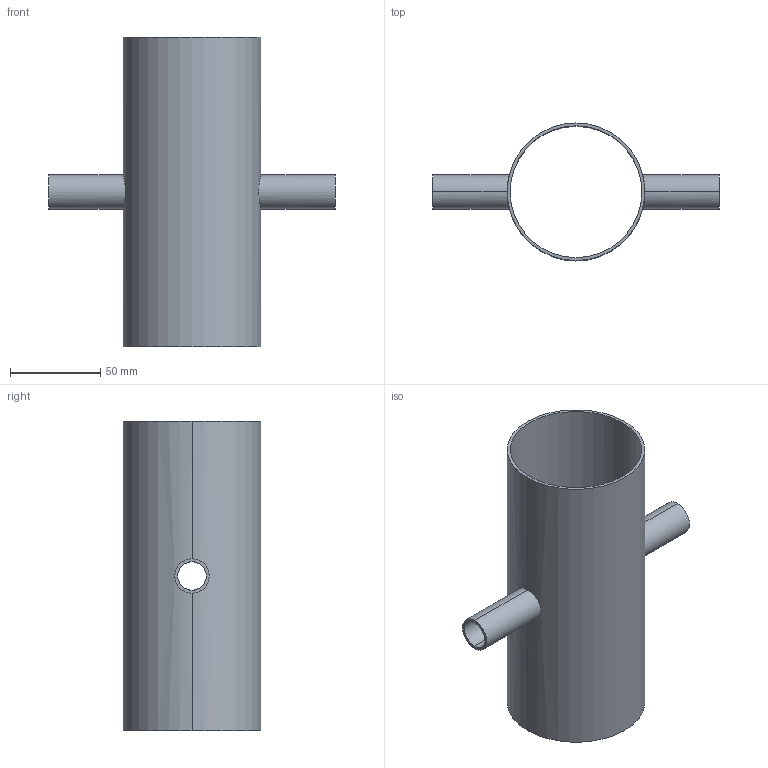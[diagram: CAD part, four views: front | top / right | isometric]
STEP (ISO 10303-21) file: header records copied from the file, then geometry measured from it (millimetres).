
FILE_DESCRIPTION (( 'STEP AP214' ), '1' );
FILE_NAME ('TE9RWWWW6L3.0x.75-...STEP', '2016-05-22T04:21:32', ( 'eran' ), ( '' ), 'SwSTEP 2.0', 'SolidWorks 2016', '' );
FILE_SCHEMA (( 'AUTOMOTIVE_DESIGN' ));
Length unit declared in the file: millimetre
Products named in the file (1): TE9RWWWW6L3.0x.75-..
Bounding box: 158.75 x 76.2 x 171.45 mm (x, y, z)
Volume: 73188.6 mm3; surface area: 89597.7 mm2
Topology: 1 solids, 1 shells, 16 faces, 40 edges, 24 vertices
Faces by surface type: cylinder 12, plane 4
Entity records: 890 total; most frequent: CARTESIAN_POINT 465, DIRECTION 82, ORIENTED_EDGE 80, EDGE_CURVE 40, AXIS2_PLACEMENT_3D 33, VERTEX_POINT 24, EDGE_LOOP 20, VECTOR 16
